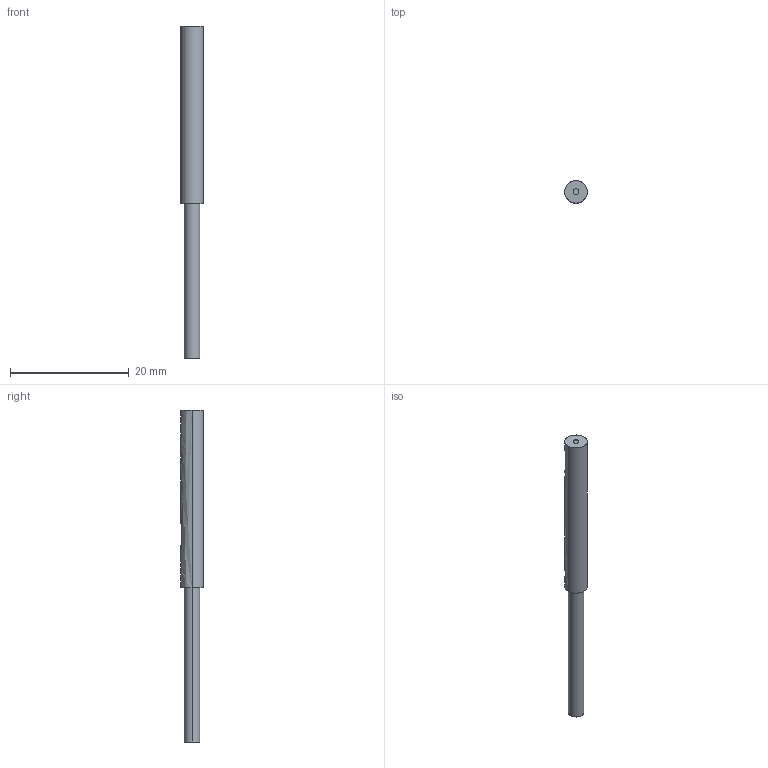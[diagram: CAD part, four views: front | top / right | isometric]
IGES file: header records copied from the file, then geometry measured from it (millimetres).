
Start section: SolidWorks IGES FILE using analytic representation for surfaces
Global section: file name: \\intra-srv04\開発データ\CAD_Data\CAD委員会\3D電子ｶﾀﾛｸﾞ\製品カタログ（新）\0_IGES\GX-3S.IGS,41HSolidWorks 2004; native system: by SolidWorks Corporation; preprocessor: Version 5.3; author: yk0651; date: 050907.101629; units: millimetre
Bounding box: 3.8 x 3.8 x 56 mm (x, y, z)
Surface area: 593.7 mm2 (no closed solid volume)
Topology: 0 solids, 0 shells, 13 faces, 242 edges, 242 vertices
Faces by surface type: revolution 8, bspline 5
